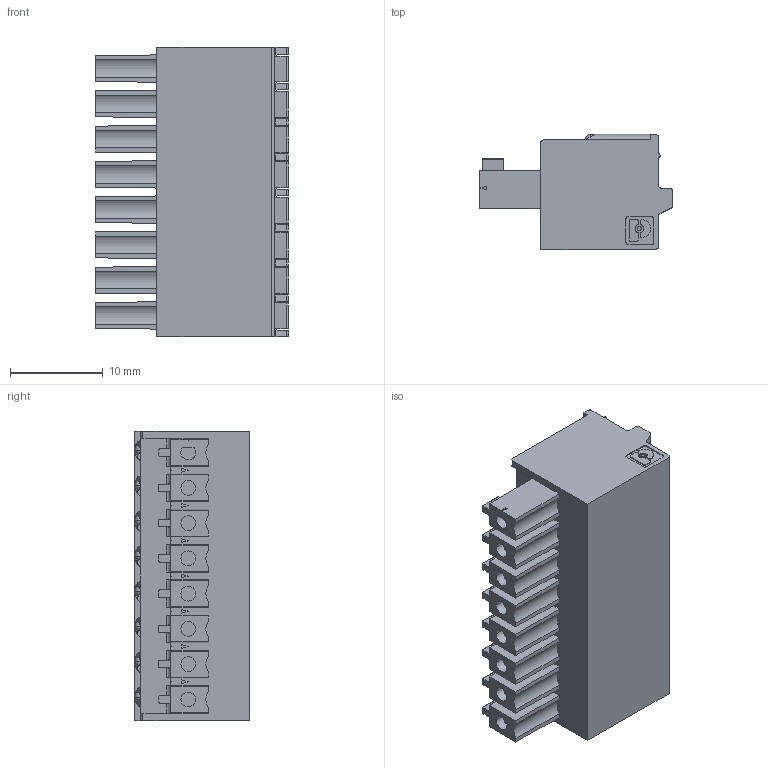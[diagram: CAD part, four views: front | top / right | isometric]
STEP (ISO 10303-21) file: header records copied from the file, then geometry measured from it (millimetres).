
FILE_DESCRIPTION((''),'2;1');
FILE_NAME('1719-TB8S_ASM','2019-11-04T18:51:26',('JKattum'),('Rockwell Automation'),'CREO PARAMETRIC BY PTC INC, 2017380','CREO PARAMETRIC BY PTC INC, 2017380','');
FILE_SCHEMA(('AUTOMOTIVE_DESIGN { 1 0 10303 214 1 1 1 1 }'));
Length unit declared in the file: millimetre
Products named in the file (4): FK-MCP_1_5-8-ST-3_81-290710_1; FK-MCP_1_5-8-ST-3_81-298320_ASM_ASM; 1719-TB8S_X2__1719-TB8S_ASM_1_ASM; 1719-TB8S_ASM
Assembly tree (3 placements, depth 4):
  1719-TB8S_ASM
    1719-TB8S_X2__1719-TB8S_ASM_1_ASM
      FK-MCP_1_5-8-ST-3_81-298320_ASM_ASM
        FK-MCP_1_5-8-ST-3_81-290710_1
Bounding box: 20.8 x 12.4 x 31.27 mm (x, y, z)
Volume: 5074.7 mm3; surface area: 3378.4 mm2
Topology: 1 solids, 1 shells, 728 faces, 1991 edges, 1268 vertices
Faces by surface type: plane 445, cylinder 211, cone 40, sphere 32
Entity records: 34354 total; most frequent: CARTESIAN_POINT 4590, ORIENTED_EDGE 3918, DIRECTION 3899, PRESENTATION_STYLE_ASSIGNMENT 2688, STYLED_ITEM 1960, CURVE_STYLE 1959, EDGE_CURVE 1959, VECTOR 1315
